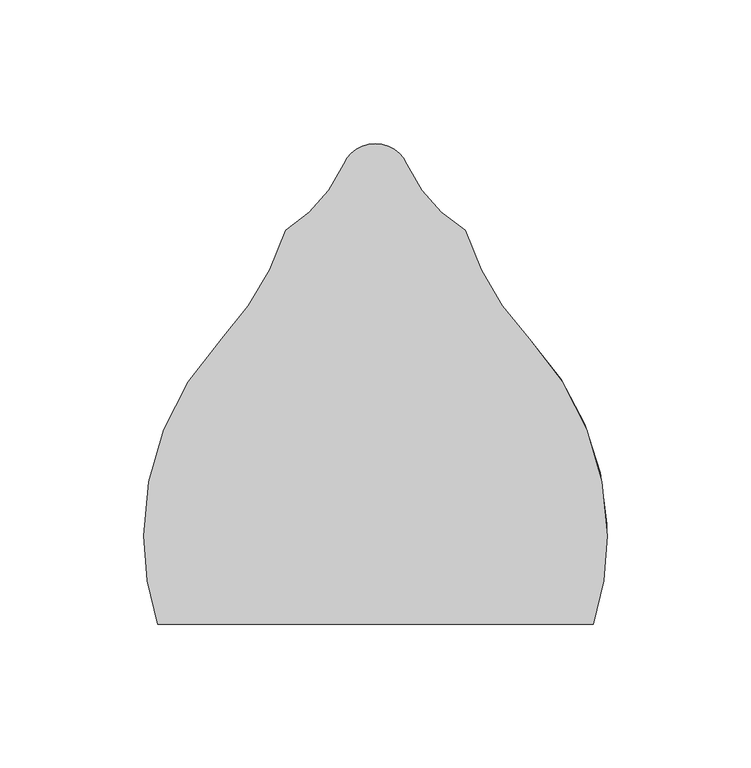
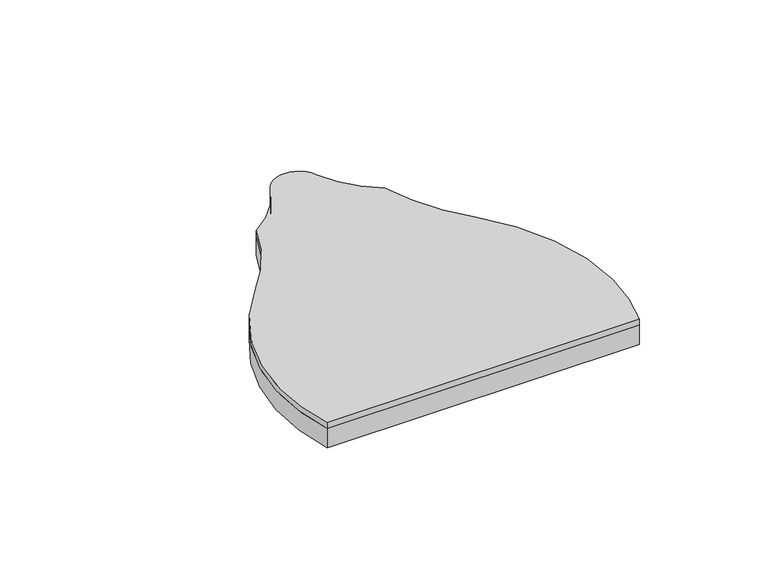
"""IFC4 building model written with IfcOpenShell, lengths in millimetres: proxy geometry, FilzFelt_Fish_Block : Fish Block."""

import ifcopenshell
import ifcopenshell.guid

model = None  # the IFC model being written
_history = None  # IfcOwnerHistory: only IFC2X3 demands one
_inside = {}  # id of a spatial element -> (the spatial element, [elements in it])
_under = {}  # id of a project, library or spatial element -> (it, [spatial elements below it])
_declared = {}  # id of a project -> (the project, [libraries it declares])
_typed = {}  # id of a type object -> (the type object, [elements of that type])
_made_of = {}  # id of a material, layer set ... -> (it, [elements and type objects made of it])


def new_model(schema):
    """Start an empty IFC model of exactly this schema.

    Asked for "IFC4X3", IfcOpenShell would pick the latest addendum, in which some entities
    have other attributes; the version numbers below select the first issue.
    IFC2X3 requires an IfcOwnerHistory on every rooted entity: one is made here for all.
    """
    global model, _history
    if schema == "IFC4X3":
        model = ifcopenshell.file(schema_version=(4, 3, 0, 0))
    else:
        model = ifcopenshell.file(schema=schema)
    _inside.clear()
    _under.clear()
    _declared.clear()
    _typed.clear()
    _made_of.clear()
    _history = None
    if model.schema == "IFC2X3":
        org = make("IfcOrganization", Name="unknown")
        user = make(
            "IfcPersonAndOrganization",
            ThePerson=make("IfcPerson", FamilyName="unknown"),
            TheOrganization=org,
        )
        app = make(
            "IfcApplication",
            ApplicationDeveloper=org,
            Version="unknown",
            ApplicationFullName="unknown",
            ApplicationIdentifier="unknown",
        )
        _history = make(
            "IfcOwnerHistory",
            OwningUser=user,
            OwningApplication=app,
            ChangeAction="ADDED",
            CreationDate=0,
        )
    return model


def make(cls, **values):
    """One entity of the class cls with the attributes given. An attribute that is None is left unset."""
    return model.create_entity(
        cls, **{name: value for name, value in values.items() if value is not None}
    )


def rooted(cls, **values):
    """An entity with a GlobalId (a new one), such as an element, a storey or a relation."""
    return make(cls, GlobalId=ifcopenshell.guid.new(), OwnerHistory=_history, **values)


def si_unit(unit_type, name, prefix=None):
    """IfcSIUnit, for example si_unit("LENGTHUNIT", "METRE", prefix="MILLI")."""
    return make("IfcSIUnit", UnitType=unit_type, Prefix=prefix, Name=name)


def assignment(units):
    """IfcUnitAssignment: the units of a project."""
    return None if units is None else make("IfcUnitAssignment", Units=units)


def point(xyz):
    """IfcCartesianPoint."""
    return None if xyz is None else make("IfcCartesianPoint", Coordinates=xyz)


def direction(xyz):
    """IfcDirection."""
    return None if xyz is None else make("IfcDirection", DirectionRatios=xyz)


def frame(location, z_axis=None, x_axis=None):
    """IfcAxis2Placement3D, a coordinate frame: its origin and axes. An axis left out is left unset."""
    return make(
        "IfcAxis2Placement3D",
        Location=point(location),
        Axis=direction(z_axis),
        RefDirection=direction(x_axis),
    )


def origin():
    """The frame at (0, 0, 0) with its axes left unset."""
    return frame((0.0, 0.0, 0.0))


def place(relative_to, where):
    """IfcLocalPlacement: puts the frame where relative to a parent placement (None: the world)."""
    return make(
        "IfcLocalPlacement", PlacementRelTo=relative_to, RelativePlacement=where
    )


def context(
    kind, dimensions, precision=None, world=None, true_north=None, identifier=None
):
    """IfcGeometricRepresentationContext, for example the 3D "Model" context."""
    return make(
        "IfcGeometricRepresentationContext",
        ContextIdentifier=identifier,
        ContextType=kind,
        CoordinateSpaceDimension=dimensions,
        Precision=precision,
        WorldCoordinateSystem=world,
        TrueNorth=true_north,
    )


def project(units=None, contexts=None):
    """IfcProject with its units and contexts."""
    return rooted(
        "IfcProject",
        Name="project",
        RepresentationContexts=contexts,
        UnitsInContext=assignment(units),
    )


def spatial(cls, under=None, at=None, **own):
    """A site, building, storey or space (cls), placed at a placement, below another one or the project."""
    s = rooted(cls, ObjectPlacement=at, **own)
    if under is not None:
        _under.setdefault(under.id(), (under, []))[1].append(s)
    return s


def polyline(points):
    """IfcPolyline through the points."""
    return make("IfcPolyline", Points=[point(p) for p in points])


def circle_curve(where, radius):
    """IfcCircle in the frame where."""
    return make("IfcCircle", Position=where, Radius=radius)


def shape(context_of_items, identifier, shape_type, items):
    """IfcShapeRepresentation: the items that make up one representation, for example the "Body"."""
    return make(
        "IfcShapeRepresentation",
        ContextOfItems=context_of_items,
        RepresentationIdentifier=identifier,
        RepresentationType=shape_type,
        Items=items,
    )


def source(mapping_origin, context_of_items, identifier, shape_type, items):
    """IfcRepresentationMap: a shape defined once, which mapped items show again and again."""
    return make(
        "IfcRepresentationMap",
        MappingOrigin=mapping_origin,
        MappedRepresentation=shape(context_of_items, identifier, shape_type, items),
    )


def transform(
    local_origin,
    x_axis=None,
    y_axis=None,
    z_axis=None,
    scale=None,
    scale2=None,
    scale3=None,
    uniform=True,
):
    """IfcCartesianTransformationOperator3D, or its non-uniform kind. x_axis, y_axis, z_axis: its Axis1, 2, 3."""
    if uniform:
        return make(
            "IfcCartesianTransformationOperator3D",
            Axis1=direction(x_axis),
            Axis2=direction(y_axis),
            LocalOrigin=point(local_origin),
            Scale=scale,
            Axis3=direction(z_axis),
        )
    return make(
        "IfcCartesianTransformationOperator3DnonUniform",
        Axis1=direction(x_axis),
        Axis2=direction(y_axis),
        LocalOrigin=point(local_origin),
        Scale=scale,
        Axis3=direction(z_axis),
        Scale2=scale2,
        Scale3=scale3,
    )


def mapped(mapping_source, mapping_target):
    """IfcMappedItem: shows the shape of a source again, moved by a transform."""
    return make(
        "IfcMappedItem", MappingSource=mapping_source, MappingTarget=mapping_target
    )


def made_of(thing, what):
    """Note that an element or type object is made of a material, layer set ...; save() writes the relation."""
    if what is not None:
        _made_of.setdefault(what.id(), (what, []))[1].append(thing)
    return thing


def element(
    cls,
    number,
    at=None,
    inside=None,
    cuts=None,
    type_object=None,
    material=None,
    context=None,
    identifier="Body",
    shape_type=None,
    held_by="IfcProductDefinitionShape",
    body=None,
    shapes=None,
    **own,
):
    """One element of the class cls, such as IfcWall. Its Tag is "e" and its number.

    at: its placement. inside: the storey or other place that contains it. cuts: it is an
    opening in that element (IfcRelVoidsElement). A single representation is given by context,
    identifier, shape_type and body (its items); several are given by shapes. held_by: the class
    of the entity that holds the representations. save() writes the other relations.
    """
    e = rooted(cls, Tag="e%d" % number, ObjectPlacement=at, **own)
    if body is not None:
        shapes = [shape(context, identifier, shape_type, body)]
    if shapes is not None:
        e.Representation = make(held_by, Representations=shapes)
    if inside is not None:
        _inside.setdefault(inside.id(), (inside, []))[1].append(e)
    if cuts is not None:
        rooted(
            "IfcRelVoidsElement", RelatingBuildingElement=cuts, RelatedOpeningElement=e
        )
    if type_object is not None:
        _typed.setdefault(type_object.id(), (type_object, []))[1].append(e)
    return made_of(e, material)


def aggregate(whole, parts):
    """IfcRelAggregates: a whole, such as a stair, and the parts it consists of."""
    return rooted("IfcRelAggregates", RelatingObject=whole, RelatedObjects=parts)


def save(model, path):
    """Write the relations noted so far, then the file.

    IfcRelAggregates (storeys below a building ...), IfcRelContainedInSpatialStructure (elements
    in a storey), IfcRelDefinesByType, IfcRelAssociatesMaterial and IfcRelDeclares: one each for
    every whole, place, type object, material and project.
    """
    for whole, parts in _under.values():
        aggregate(whole, parts)
    for where, things in _inside.values():
        rooted(
            "IfcRelContainedInSpatialStructure",
            RelatedElements=things,
            RelatingStructure=where,
        )
    for kind, things in _typed.values():
        rooted("IfcRelDefinesByType", RelatedObjects=things, RelatingType=kind)
    for what, things in _made_of.values():
        rooted("IfcRelAssociatesMaterial", RelatedObjects=things, RelatingMaterial=what)
    for by, libraries in _declared.values():
        rooted("IfcRelDeclares", RelatingContext=by, RelatedDefinitions=libraries)
    model.write(path)


def plane_surface(at):
    """IfcPlane: the flat surface through the origin of the frame at, square to its z axis."""
    return make("IfcPlane", Position=at)


def cylinder_surface(at, radius):
    """IfcCylindricalSurface: all points at the distance radius from the z axis of the frame at."""
    return make("IfcCylindricalSurface", Position=at, Radius=radius)


def revolved_surface(curve, axis_point, axis_direction):
    """IfcSurfaceOfRevolution: the curve turned about the line through axis_point along axis_direction."""
    return make(
        "IfcSurfaceOfRevolution",
        SweptCurve=make("IfcArbitraryOpenProfileDef", ProfileType="CURVE", Curve=curve),
        AxisPosition=make("IfcAxis1Placement", Location=point(axis_point), Axis=direction(axis_direction)),
    )


def advanced_brep(points, edges, surfaces, faces):
    """IfcAdvancedBrep: a solid bounded by faces that lie on surfaces and meet in shared edges.

    An edge is (start, end): straight between two places in points (the first is 0);
    or (start, end, curve); or (start, end, curve, False) where it runs against its curve.
    A face is (place in surfaces, loops), or (place, loops, False) where it looks against
    its surface's normal. A loop lists edges by number (the first is 1), with a minus sign
    where the edge is run from its end to its start. The first loop is the outer one.
    """
    corners = [point(p) for p in points]
    vertices = [make("IfcVertexPoint", VertexGeometry=c) for c in corners]
    made = []
    for start, end, *more in edges:
        made.append(
            make(
                "IfcEdgeCurve",
                EdgeStart=vertices[start],
                EdgeEnd=vertices[end],
                EdgeGeometry=more[0] if more else make("IfcPolyline", Points=[corners[start], corners[end]]),
                SameSense=more[1] if len(more) > 1 else True,
            )
        )
    hull = []
    for where, loops, *sense in faces:
        bounds = []
        for j, loop in enumerate(loops):
            ring = [make("IfcOrientedEdge", EdgeElement=made[abs(k) - 1], Orientation=k > 0) for k in loop]
            bounds.append(
                make(
                    "IfcFaceOuterBound" if j == 0 else "IfcFaceBound",
                    Bound=make("IfcEdgeLoop", EdgeList=ring),
                    Orientation=True,
                )
            )
        hull.append(make("IfcAdvancedFace", Bounds=bounds, FaceSurface=surfaces[where], SameSense=sense[0] if sense else True))
    return make("IfcAdvancedBrep", Outer=make("IfcClosedShell", CfsFaces=hull))


def specialty_equipment_1d57ec5c(model_context):
    return source(origin(), model_context, "Body", "AdvancedBrep", [
        advanced_brep(
        [(-53.5486457, 68.6120133, 10.0210937), (-31.2619065, 106.3338576, 10.0210937), (-11.0103348, 129.4133496, 10.0210937), (11.0103348, 129.4133496, 10.0210937), (31.2619065, 106.3338576, 10.0210937), (53.5486457, 68.6120133, 10.0210937), (75.8353849, -30.890169, 10.0210937), (-75.8353849, -30.890169, 10.0210937), (-80.7142226, 0.0, 10.0210937), (53.5486457, 68.6120133, 12.9976563), (31.2619065, 106.3338576, 12.9976563), (11.0103348, 129.4133496, 12.9976563), (0.0, 136.5838795, 12.9976563), (-11.0103348, 129.4133496, 12.9976563), (-31.2619065, 106.3338576, 12.9976563), (-53.5486457, 68.6120133, 12.9976563), (-80.7142226, 0.0, 12.9976563), (-75.8353849, -30.890169, 12.9976563), (75.8353849, -30.890169, 12.9976563), (80.7142226, 0.0, 12.9976563)],
        [
            (0, 1, circle_curve(frame((-126.6124317, 137.2240266, 10.0210937), z_axis=(0.0, 0.0, 1.0), x_axis=(-1.0, 0.0, 0.0)), 100.2293629)),
            (1, 2, circle_curve(frame((-57.9263497, 150.1559416, 10.0210937), z_axis=(0.0, 0.0, 1.0), x_axis=(-1.0, 0.0, 0.0)), 51.2968574)),
            (2, 3, circle_curve(frame((0.0, 124.5454408, 10.0210937), z_axis=(0.0, 0.0, -1.0), x_axis=(-1.0, 0.0, 0.0)), 12.0384388)),
            (3, 4, circle_curve(frame((57.9263497, 150.1559416, 10.0210937), z_axis=(0.0, 0.0, 1.0), x_axis=(-1.0, 0.0, 0.0)), 51.2968574)),
            (4, 5, circle_curve(frame((126.6124317, 137.2240266, 10.0210937), z_axis=(0.0, 0.0, 1.0), x_axis=(-1.0, 0.0, 0.0)), 100.2293629)),
            (5, 6, circle_curve(frame((-19.5151403, 0.0, 10.0210937), z_axis=(0.0, 0.0, -1.0), x_axis=(-1.0, 0.0, 0.0)), 100.2293629)),
            (6, 7),
            (7, 8, circle_curve(frame((19.5151403, 0.0, 10.0210937), z_axis=(0.0, 0.0, -1.0), x_axis=(-1.0, 0.0, 0.0)), 100.2293629)),
            (8, 0, circle_curve(frame((19.5151403, 0.0, 10.0210937), z_axis=(0.0, 0.0, -1.0), x_axis=(-1.0, 0.0, 0.0)), 100.2293629)),
            (9, 10, circle_curve(frame((126.6124317, 137.2240266, 12.9976563), z_axis=(0.0, 0.0, -1.0), x_axis=(-1.0, 0.0, 0.0)), 100.2293629)),
            (10, 11, circle_curve(frame((57.9263497, 150.1559416, 12.9976563), z_axis=(0.0, 0.0, -1.0), x_axis=(-1.0, 0.0, 0.0)), 51.2968574)),
            (11, 12, circle_curve(frame((0.0, 124.5454408, 12.9976563), z_axis=(0.0, 0.0, 1.0), x_axis=(-1.0, 0.0, 0.0)), 12.0384388)),
            (12, 13, circle_curve(frame((0.0, 124.5454408, 12.9976563), z_axis=(0.0, 0.0, 1.0), x_axis=(-1.0, 0.0, 0.0)), 12.0384388)),
            (13, 14, circle_curve(frame((-57.9263497, 150.1559416, 12.9976563), z_axis=(0.0, 0.0, -1.0), x_axis=(-1.0, 0.0, 0.0)), 51.2968574)),
            (14, 15, circle_curve(frame((-126.6124317, 137.2240266, 12.9976563), z_axis=(0.0, 0.0, -1.0), x_axis=(-1.0, 0.0, 0.0)), 100.2293629)),
            (15, 16, circle_curve(frame((19.5151403, 0.0, 12.9976563), z_axis=(0.0, 0.0, 1.0), x_axis=(-1.0, 0.0, 0.0)), 100.2293629)),
            (16, 17, circle_curve(frame((19.5151403, 0.0, 12.9976563), z_axis=(0.0, 0.0, 1.0), x_axis=(-1.0, 0.0, 0.0)), 100.2293629)),
            (17, 18),
            (18, 19, circle_curve(frame((-19.5151403, 0.0, 12.9976563), z_axis=(0.0, 0.0, 1.0), x_axis=(-1.0, 0.0, 0.0)), 100.2293629)),
            (19, 9, circle_curve(frame((-19.5151403, 0.0, 12.9976563), z_axis=(0.0, 0.0, 1.0), x_axis=(-1.0, 0.0, 0.0)), 100.2293629)),
            (5, 9),
            (18, 6),
            (15, 0),
            (7, 17),
            (14, 1),
            (13, 2),
            (11, 3),
            (10, 4),
        ],
        [
            plane_surface(frame((0.0, 0.0, 10.0210937), z_axis=(0.0, 0.0, -1.0), x_axis=(0.0, -1.0, 0.0))),
            plane_surface(frame((0.0, 0.0, 12.9976563), z_axis=(0.0, 0.0, 1.0), x_axis=(0.0, -1.0, 0.0))),
            cylinder_surface(frame((-19.5151403, 0.0, 10.0210937), z_axis=(0.0, 0.0, -1.0), x_axis=(-1.0, 0.0, 0.0)), 100.2293629),
            cylinder_surface(frame((19.5151403, 0.0, 10.0210937), z_axis=(0.0, 0.0, -1.0), x_axis=(-1.0, 0.0, 0.0)), 100.2293629),
            revolved_surface(polyline([(-226.84179460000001, 137.2240266, 12.9976563), (-226.84179460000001, 137.2240266, 10.0210937)]), (-126.6124317, 137.2240266, 10.0210937), (0.0, 0.0, 1.0)),
            revolved_surface(polyline([(-109.2232071, 150.1559416, 12.9976563), (-109.2232071, 150.1559416, 10.0210937)]), (-57.9263497, 150.1559416, 10.0210937), (0.0, 0.0, 1.0)),
            cylinder_surface(frame((0.0, 124.5454408, 10.0210937), z_axis=(0.0, 0.0, -1.0), x_axis=(-1.0, 0.0, 0.0)), 12.0384388),
            revolved_surface(polyline([(6.629492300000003, 150.1559416, 12.9976563), (6.629492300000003, 150.1559416, 10.0210937)]), (57.9263497, 150.1559416, 10.0210937), (0.0, 0.0, 1.0)),
            revolved_surface(polyline([(26.383068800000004, 137.2240266, 12.9976563), (26.383068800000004, 137.2240266, 10.0210937)]), (126.6124317, 137.2240266, 10.0210937), (0.0, 0.0, 1.0)),
            plane_surface(frame((112.4642226, -30.890169, 12.9976562), z_axis=(0.0, -1.0, 0.0), x_axis=(0.0, 0.0, -1.0))),
        ],
        [
            (0, [[1, 2, 3, 4, 5, 6, 7, 8, 9]]),
            (1, [[10, 11, 12, 13, 14, 15, 16, 17, 18, 19, 20]]),
            (2, [[21, -20, -19, 22, -6]]),
            (3, [[23, -9, -8, 24, -17, -16]]),
            (4, [[-1, -23, -15, 25]]),
            (5, [[-2, -25, -14, 26]]),
            (6, [[-3, -26, -13, -12, 27]]),
            (7, [[-4, -27, -11, 28]]),
            (8, [[-5, -28, -10, -21]]),
            (9, [[-7, -22, -18, -24]]),
        ],
    ),
        advanced_brep(
        [(-53.5486457, 68.6120133, 0.0), (-31.2619065, 106.3338576, 0.0), (-11.0103348, 129.4133496, 0.0), (0.0, 136.5838795, 0.0), (11.0103348, 129.4133496, 0.0), (31.2619065, 106.3338576, 0.0), (53.5486457, 68.6120133, 0.0), (80.7142226, 0.0, 0.0), (75.8353849, -30.890169, 0.0), (-75.8353849, -30.890169, 0.0), (-80.7142226, 0.0, 0.0), (53.5486457, 68.6120133, 10.0210937), (31.2619065, 106.3338576, 10.0210937), (11.0103348, 129.4133496, 10.0210937), (-11.0103348, 129.4133496, 10.0210937), (-31.2619065, 106.3338576, 10.0210937), (-53.5486457, 68.6120133, 10.0210937), (-80.7142226, 0.0, 10.0210937), (-75.8353849, -30.890169, 10.0210937), (75.8353849, -30.890169, 10.0210937)],
        [
            (0, 1, circle_curve(frame((-126.6124317, 137.2240266, 0.0), z_axis=(0.0, 0.0, 1.0), x_axis=(-1.0, 0.0, 0.0)), 100.2293629)),
            (1, 2, circle_curve(frame((-57.9263497, 150.1559416, 0.0), z_axis=(0.0, 0.0, 1.0), x_axis=(-1.0, 0.0, 0.0)), 51.2968574)),
            (2, 3, circle_curve(frame((0.0, 124.5454408, 0.0), z_axis=(0.0, 0.0, -1.0), x_axis=(-1.0, 0.0, 0.0)), 12.0384388)),
            (3, 4, circle_curve(frame((0.0, 124.5454408, 0.0), z_axis=(0.0, 0.0, -1.0), x_axis=(-1.0, 0.0, 0.0)), 12.0384388)),
            (4, 5, circle_curve(frame((57.9263497, 150.1559416, 0.0), z_axis=(0.0, 0.0, 1.0), x_axis=(-1.0, 0.0, 0.0)), 51.2968574)),
            (5, 6, circle_curve(frame((126.6124317, 137.2240266, 0.0), z_axis=(0.0, 0.0, 1.0), x_axis=(-1.0, 0.0, 0.0)), 100.2293629)),
            (6, 7, circle_curve(frame((-19.5151403, 0.0, 0.0), z_axis=(0.0, 0.0, -1.0), x_axis=(-1.0, 0.0, 0.0)), 100.2293629)),
            (7, 8, circle_curve(frame((-19.5151403, 0.0, 0.0), z_axis=(0.0, 0.0, -1.0), x_axis=(-1.0, 0.0, 0.0)), 100.2293629)),
            (8, 9),
            (9, 10, circle_curve(frame((19.5151403, 0.0, 0.0), z_axis=(0.0, 0.0, -1.0), x_axis=(-1.0, 0.0, 0.0)), 100.2293629)),
            (10, 0, circle_curve(frame((19.5151403, 0.0, 0.0), z_axis=(0.0, 0.0, -1.0), x_axis=(-1.0, 0.0, 0.0)), 100.2293629)),
            (11, 12, circle_curve(frame((126.6124317, 137.2240266, 10.0210937), z_axis=(0.0, 0.0, -1.0), x_axis=(-1.0, 0.0, 0.0)), 100.2293629)),
            (12, 13, circle_curve(frame((57.9263497, 150.1559416, 10.0210937), z_axis=(0.0, 0.0, -1.0), x_axis=(-1.0, 0.0, 0.0)), 51.2968574)),
            (13, 14, circle_curve(frame((0.0, 124.5454408, 10.0210937), z_axis=(0.0, 0.0, 1.0), x_axis=(-1.0, 0.0, 0.0)), 12.0384388)),
            (14, 15, circle_curve(frame((-57.9263497, 150.1559416, 10.0210937), z_axis=(0.0, 0.0, -1.0), x_axis=(-1.0, 0.0, 0.0)), 51.2968574)),
            (15, 16, circle_curve(frame((-126.6124317, 137.2240266, 10.0210937), z_axis=(0.0, 0.0, -1.0), x_axis=(-1.0, 0.0, 0.0)), 100.2293629)),
            (16, 17, circle_curve(frame((19.5151403, 0.0, 10.0210937), z_axis=(0.0, 0.0, 1.0), x_axis=(-1.0, 0.0, 0.0)), 100.2293629)),
            (17, 18, circle_curve(frame((19.5151403, 0.0, 10.0210937), z_axis=(0.0, 0.0, 1.0), x_axis=(-1.0, 0.0, 0.0)), 100.2293629)),
            (18, 19),
            (19, 11, circle_curve(frame((-19.5151403, 0.0, 10.0210937), z_axis=(0.0, 0.0, 1.0), x_axis=(-1.0, 0.0, 0.0)), 100.2293629)),
            (16, 0),
            (9, 18),
            (15, 1),
            (14, 2),
            (13, 4),
            (12, 5),
            (11, 6),
            (19, 8),
        ],
        [
            plane_surface(frame((0.0, 0.0, 0.0), z_axis=(0.0, 0.0, -1.0), x_axis=(0.0, -1.0, 0.0))),
            plane_surface(frame((0.0, 0.0, 10.0210937), z_axis=(0.0, 0.0, 1.0), x_axis=(0.0, -1.0, 0.0))),
            cylinder_surface(frame((19.5151403, 0.0, 0.0), z_axis=(0.0, 0.0, -1.0), x_axis=(-1.0, 0.0, 0.0)), 100.2293629),
            revolved_surface(polyline([(-226.84179460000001, 137.2240266, 10.0210937), (-226.84179460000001, 137.2240266, 0.0)]), (-126.6124317, 137.2240266, 0.0), (0.0, 0.0, 1.0)),
            revolved_surface(polyline([(-109.2232071, 150.1559416, 10.0210937), (-109.2232071, 150.1559416, 0.0)]), (-57.9263497, 150.1559416, 0.0), (0.0, 0.0, 1.0)),
            cylinder_surface(frame((0.0, 124.5454408, 0.0), z_axis=(0.0, 0.0, -1.0), x_axis=(-1.0, 0.0, 0.0)), 12.0384388),
            revolved_surface(polyline([(6.629492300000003, 150.1559416, 10.0210937), (6.629492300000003, 150.1559416, 0.0)]), (57.9263497, 150.1559416, 0.0), (0.0, 0.0, 1.0)),
            revolved_surface(polyline([(26.383068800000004, 137.2240266, 10.0210937), (26.383068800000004, 137.2240266, 0.0)]), (126.6124317, 137.2240266, 0.0), (0.0, 0.0, 1.0)),
            cylinder_surface(frame((-19.5151403, 0.0, 0.0), z_axis=(0.0, 0.0, -1.0), x_axis=(-1.0, 0.0, 0.0)), 100.2293629),
            plane_surface(frame((112.4642226, -30.890169, 12.9976562), z_axis=(0.0, -1.0, 0.0), x_axis=(0.0, 0.0, -1.0))),
        ],
        [
            (0, [[1, 2, 3, 4, 5, 6, 7, 8, 9, 10, 11]]),
            (1, [[12, 13, 14, 15, 16, 17, 18, 19, 20]]),
            (2, [[21, -11, -10, 22, -18, -17]]),
            (3, [[-1, -21, -16, 23]]),
            (4, [[-2, -23, -15, 24]]),
            (5, [[-14, 25, -4, -3, -24]]),
            (6, [[-5, -25, -13, 26]]),
            (7, [[-6, -26, -12, 27]]),
            (8, [[-27, -20, 28, -8, -7]]),
            (9, [[-9, -28, -19, -22]]),
        ],
    ),
    ])


if __name__ == "__main__":
    model = new_model("IFC4")
    model_context = context("Model", 3, world=origin())
    ifc_project = project(units=[si_unit("LENGTHUNIT", "METRE", prefix="MILLI")], contexts=[model_context])
    site = spatial("IfcSite", under=ifc_project)
    building = spatial("IfcBuilding", under=site)
    placement = place(None, origin())
    specialty_equipment_shape = specialty_equipment_1d57ec5c(model_context)
    element("IfcBuildingElementProxy", 1, Name="FilzFelt_Fish_Block : Fish Block", ObjectType="FilzFelt_Fish_Block : Fish Block", at=placement, inside=building, context=model_context, shape_type="MappedRepresentation", body=[
        mapped(specialty_equipment_shape, transform((0.0, 0.0, 0.0), x_axis=(1.0, 0.0, 0.0), y_axis=(0.0, 1.0, 0.0), z_axis=(0.0, 0.0, 1.0))),
    ])
    save(model, "model.ifc")
